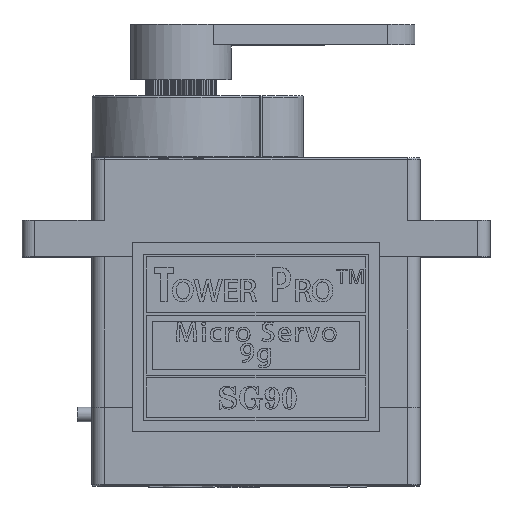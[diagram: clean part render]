
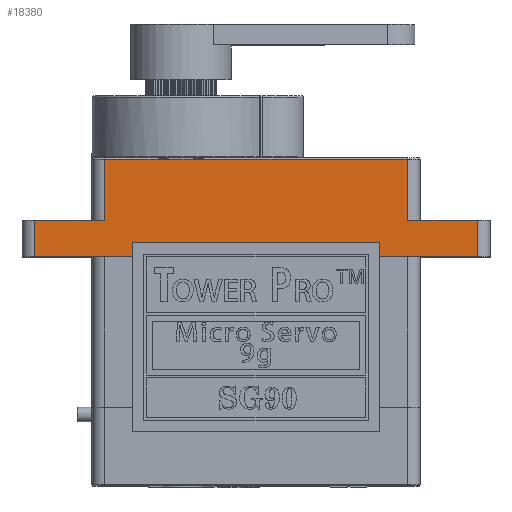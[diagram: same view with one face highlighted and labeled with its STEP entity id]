
A CAD part, top view. The second image highlights one B-rep face of the part: STEP entity #18380.
In plain terms, the highlighted planar face has unit normal (0, 0, 1).
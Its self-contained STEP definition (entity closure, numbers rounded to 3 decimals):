
#1273=PLANE('',#19417);
#1895=FACE_OUTER_BOUND('',#2842,.T.);
#2842=EDGE_LOOP('',(#15052,#15053,#15054,#15055,#15056,#15057,#15058,#15059,
#15060,#15061,#15062));
#4224=LINE('',#33676,#5932);
#4227=LINE('',#33690,#5935);
#4229=LINE('',#33695,#5937);
#4230=LINE('',#33697,#5938);
#4231=LINE('',#33698,#5939);
#4232=LINE('',#33700,#5940);
#4233=LINE('',#33702,#5941);
#4234=LINE('',#33704,#5942);
#4235=LINE('',#33706,#5943);
#4236=LINE('',#33708,#5944);
#4237=LINE('',#33709,#5945);
#5932=VECTOR('',#22115,1000.);
#5935=VECTOR('',#22128,1000.);
#5937=VECTOR('',#22132,10.);
#5938=VECTOR('',#22133,1000.);
#5939=VECTOR('',#22134,1000.);
#5940=VECTOR('',#22135,1000.);
#5941=VECTOR('',#22136,1000.);
#5942=VECTOR('',#22137,1000.);
#5943=VECTOR('',#22138,1000.);
#5944=VECTOR('',#22139,1000.);
#5945=VECTOR('',#22140,10.);
#8507=VERTEX_POINT('',#33673);
#8508=VERTEX_POINT('',#33675);
#8514=VERTEX_POINT('',#33688);
#8515=VERTEX_POINT('',#33693);
#8516=VERTEX_POINT('',#33694);
#8517=VERTEX_POINT('',#33696);
#8518=VERTEX_POINT('',#33699);
#8519=VERTEX_POINT('',#33701);
#8520=VERTEX_POINT('',#33703);
#8521=VERTEX_POINT('',#33705);
#8522=VERTEX_POINT('',#33707);
#10837=EDGE_CURVE('',#8507,#8508,#4224,.T.);
#10844=EDGE_CURVE('',#8507,#8514,#4227,.T.);
#10846=EDGE_CURVE('',#8515,#8516,#4229,.T.);
#10847=EDGE_CURVE('',#8515,#8517,#4230,.T.);
#10848=EDGE_CURVE('',#8517,#8508,#4231,.T.);
#10849=EDGE_CURVE('',#8514,#8518,#4232,.T.);
#10850=EDGE_CURVE('',#8519,#8518,#4233,.T.);
#10851=EDGE_CURVE('',#8520,#8519,#4234,.T.);
#10852=EDGE_CURVE('',#8521,#8520,#4235,.T.);
#10853=EDGE_CURVE('',#8521,#8522,#4236,.T.);
#10854=EDGE_CURVE('',#8516,#8522,#4237,.T.);
#15052=ORIENTED_EDGE('',*,*,#10846,.F.);
#15053=ORIENTED_EDGE('',*,*,#10847,.T.);
#15054=ORIENTED_EDGE('',*,*,#10848,.T.);
#15055=ORIENTED_EDGE('',*,*,#10837,.F.);
#15056=ORIENTED_EDGE('',*,*,#10844,.T.);
#15057=ORIENTED_EDGE('',*,*,#10849,.T.);
#15058=ORIENTED_EDGE('',*,*,#10850,.F.);
#15059=ORIENTED_EDGE('',*,*,#10851,.F.);
#15060=ORIENTED_EDGE('',*,*,#10852,.F.);
#15061=ORIENTED_EDGE('',*,*,#10853,.T.);
#15062=ORIENTED_EDGE('',*,*,#10854,.F.);
#18380=ADVANCED_FACE('',(#1895),#1273,.F.);
#19417=AXIS2_PLACEMENT_3D('',#33692,#22130,#22131);
#22115=DIRECTION('',(1.,0.,0.));
#22128=DIRECTION('',(0.,-1.,0.));
#22130=DIRECTION('center_axis',(0.,0.,-1.));
#22131=DIRECTION('ref_axis',(-1.,0.,0.));
#22132=DIRECTION('',(1.,0.,0.));
#22133=DIRECTION('',(-1.,0.,0.));
#22134=DIRECTION('',(0.,-1.,0.));
#22135=DIRECTION('',(1.,0.,0.));
#22136=DIRECTION('',(0.,-1.,0.));
#22137=DIRECTION('',(1.,0.,0.));
#22138=DIRECTION('',(0.,-1.,0.));
#22139=DIRECTION('',(-1.,0.,0.));
#22140=DIRECTION('',(1.,0.,0.));
#33673=CARTESIAN_POINT('',(-15.2,7.65,6.1));
#33675=CARTESIAN_POINT('',(-10.4,7.65,6.1));
#33676=CARTESIAN_POINT('',(-15.2,7.65,6.1));
#33688=CARTESIAN_POINT('',(-15.2,5.15,6.1));
#33690=CARTESIAN_POINT('',(-15.2,7.65,6.1));
#33692=CARTESIAN_POINT('Origin',(-15.2,7.65,6.1));
#33693=CARTESIAN_POINT('',(-6.712,11.85,6.1));
#33694=CARTESIAN_POINT('',(-5.15,11.85,6.1));
#33695=CARTESIAN_POINT('',(-6.712,11.85,6.1));
#33696=CARTESIAN_POINT('',(-10.4,11.85,6.1));
#33697=CARTESIAN_POINT('',(-15.2,11.85,6.1));
#33698=CARTESIAN_POINT('',(-10.4,60.045,6.1));
#33699=CARTESIAN_POINT('',(15.2,5.15,6.1));
#33700=CARTESIAN_POINT('',(-15.2,5.15,6.1));
#33701=CARTESIAN_POINT('',(15.2,7.65,6.1));
#33702=CARTESIAN_POINT('',(15.2,7.65,6.1));
#33703=CARTESIAN_POINT('',(10.4,7.65,6.1));
#33704=CARTESIAN_POINT('',(-15.2,7.65,6.1));
#33705=CARTESIAN_POINT('',(10.4,11.85,6.1));
#33706=CARTESIAN_POINT('',(10.4,60.045,6.1));
#33707=CARTESIAN_POINT('',(-3.588,11.85,6.1));
#33708=CARTESIAN_POINT('',(-15.2,11.85,6.1));
#33709=CARTESIAN_POINT('',(-5.15,11.85,6.1));
